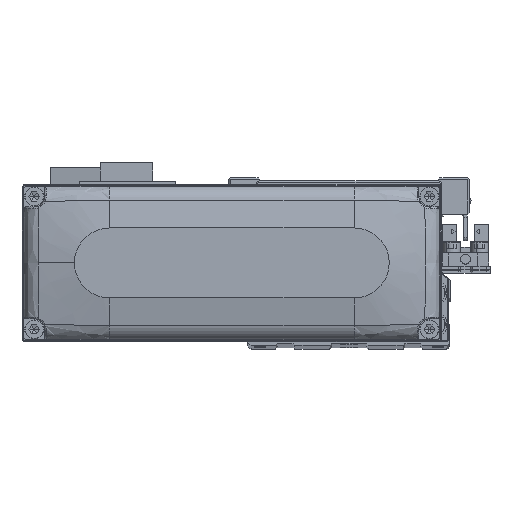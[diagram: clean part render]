
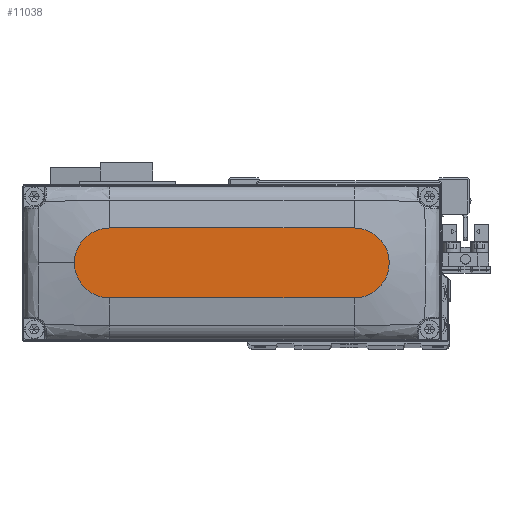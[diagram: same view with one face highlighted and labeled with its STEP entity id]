
A CAD part, top view. The second image highlights one B-rep face of the part: STEP entity #11038.
In plain terms, the highlighted planar face has unit normal (0, 0, 1).
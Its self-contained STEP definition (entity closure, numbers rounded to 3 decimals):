
#2044 = VERTEX_POINT ( 'NONE', #32294 ) ;
#2218 = LINE ( 'NONE', #14245, #15507 ) ;
#3669 = VECTOR ( 'NONE', #30419, 1000. ) ;
#4802 = CARTESIAN_POINT ( 'NONE',  ( 45., 0., 28. ) ) ;
#5883 = CIRCLE ( 'NONE', #27906, 10. ) ;
#6009 = DIRECTION ( 'NONE',  ( 1., 0., 0. ) ) ;
#6373 = LINE ( 'NONE', #18398, #3669 ) ;
#6910 = ORIENTED_EDGE ( 'NONE', *, *, #33419, .T. ) ;
#7261 = DIRECTION ( 'NONE',  ( 0., 0., 1. ) ) ;
#8598 = AXIS2_PLACEMENT_3D ( 'NONE', #20972, #33010, #6009 ) ;
#8682 = DIRECTION ( 'NONE',  ( 0., 0., 1. ) ) ;
#8958 = PLANE ( 'NONE',  #8598 ) ;
#9834 = EDGE_CURVE ( 'NONE', #2044, #21208, #6373, .T. ) ;
#10574 = VERTEX_POINT ( 'NONE', #11410 ) ;
#11038 = ADVANCED_FACE ( 'NONE', ( #35961 ), #8958, .T. ) ;
#11410 = CARTESIAN_POINT ( 'NONE',  ( 35., 10., 28. ) ) ;
#12550 = EDGE_CURVE ( 'NONE', #10574, #38342, #2218, .T. ) ;
#13633 = VERTEX_POINT ( 'NONE', #4802 ) ;
#14245 = CARTESIAN_POINT ( 'NONE',  ( -35., 10., 28. ) ) ;
#14718 = CARTESIAN_POINT ( 'NONE',  ( -35., 0., 28. ) ) ;
#15507 = VECTOR ( 'NONE', #26278, 1000. ) ;
#17305 = CARTESIAN_POINT ( 'NONE',  ( 35., -10., 28. ) ) ;
#18367 = AXIS2_PLACEMENT_3D ( 'NONE', #34255, #7261, #19289 ) ;
#18398 = CARTESIAN_POINT ( 'NONE',  ( -35., -10., 28. ) ) ;
#19095 = AXIS2_PLACEMENT_3D ( 'NONE', #35690, #8682, #20687 ) ;
#19289 = DIRECTION ( 'NONE',  ( 1., 0., 0. ) ) ;
#20687 = DIRECTION ( 'NONE',  ( 1., 0., 0. ) ) ;
#20972 = CARTESIAN_POINT ( 'NONE',  ( 0., 0., 28. ) ) ;
#21208 = VERTEX_POINT ( 'NONE', #17305 ) ;
#24201 = EDGE_LOOP ( 'NONE', ( #25320, #6910, #38595, #36156, #24731 ) ) ;
#24731 = ORIENTED_EDGE ( 'NONE', *, *, #36620, .T. ) ;
#25320 = ORIENTED_EDGE ( 'NONE', *, *, #12550, .T. ) ;
#26278 = DIRECTION ( 'NONE',  ( -1., 0., 0. ) ) ;
#26746 = DIRECTION ( 'NONE',  ( 0., 0., 1. ) ) ;
#27906 = AXIS2_PLACEMENT_3D ( 'NONE', #14718, #26746, #38769 ) ;
#30419 = DIRECTION ( 'NONE',  ( 1., 0., 0. ) ) ;
#31881 = EDGE_CURVE ( 'NONE', #21208, #13633, #35357, .T. ) ;
#32294 = CARTESIAN_POINT ( 'NONE',  ( -35., -10., 28. ) ) ;
#33010 = DIRECTION ( 'NONE',  ( 0., 0., 1. ) ) ;
#33419 = EDGE_CURVE ( 'NONE', #38342, #2044, #5883, .T. ) ;
#34255 = CARTESIAN_POINT ( 'NONE',  ( 35., 0., 28. ) ) ;
#34496 = CARTESIAN_POINT ( 'NONE',  ( -35., 10., 28. ) ) ;
#35357 = CIRCLE ( 'NONE', #18367, 10. ) ;
#35690 = CARTESIAN_POINT ( 'NONE',  ( 35., 0., 28. ) ) ;
#35961 = FACE_OUTER_BOUND ( 'NONE', #24201, .T. ) ;
#36121 = CIRCLE ( 'NONE', #19095, 10. ) ;
#36156 = ORIENTED_EDGE ( 'NONE', *, *, #31881, .T. ) ;
#36620 = EDGE_CURVE ( 'NONE', #13633, #10574, #36121, .T. ) ;
#38342 = VERTEX_POINT ( 'NONE', #34496 ) ;
#38595 = ORIENTED_EDGE ( 'NONE', *, *, #9834, .T. ) ;
#38769 = DIRECTION ( 'NONE',  ( 1., 0., 0. ) ) ;
